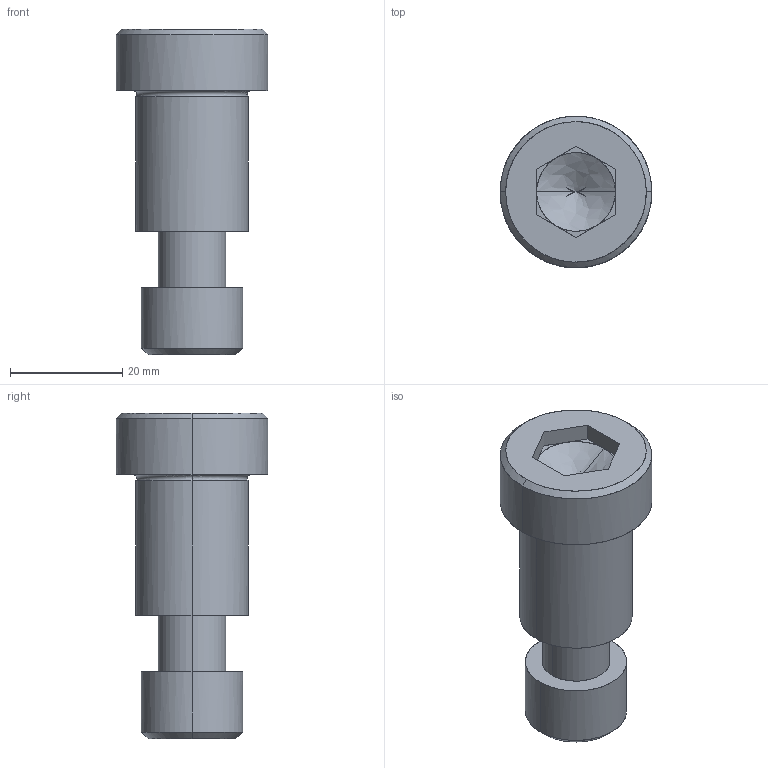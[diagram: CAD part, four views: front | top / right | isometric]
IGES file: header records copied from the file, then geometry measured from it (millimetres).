
Global section: file name: E:\UnigraphicsGraphicData\MISUMI_PRESS-PARTS\IGES\3d_sbtc20-25_05106_r00.igs; native system: NX V5.0; preprocessor: UGS NX IGES V5.0; author: MISUMI; date: 20110105.162448; units: millimetre
Bounding box: 27 x 27 x 58 mm (x, y, z)
Surface area: 7057.5 mm2 (no closed solid volume)
Topology: 0 solids, 0 shells, 52 faces, 294 edges, 290 vertices
Faces by surface type: bspline 52
